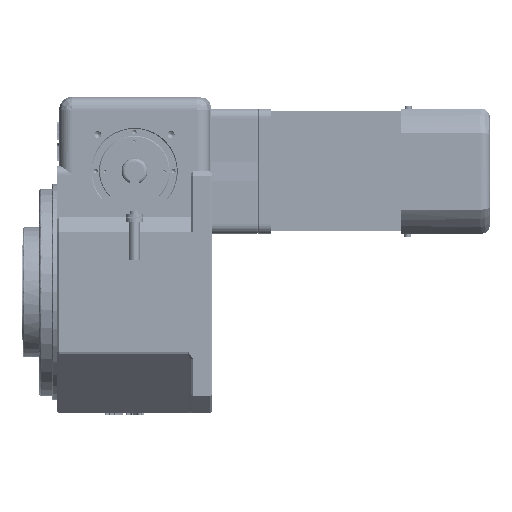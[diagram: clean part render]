
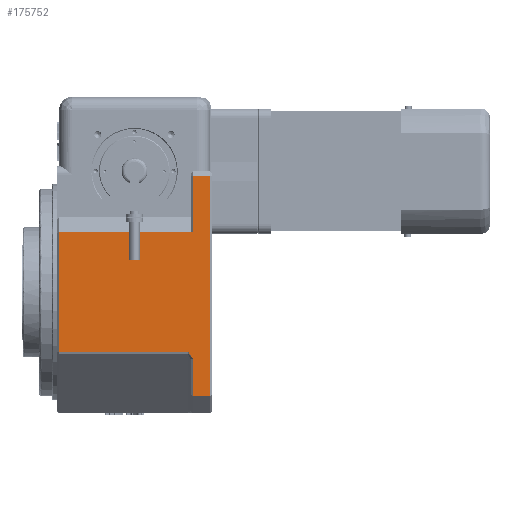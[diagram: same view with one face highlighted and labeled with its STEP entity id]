
A CAD part, left-side view. The second image highlights one B-rep face of the part: STEP entity #175752.
In plain terms, the highlighted planar face has unit normal (-1, 0, 0).
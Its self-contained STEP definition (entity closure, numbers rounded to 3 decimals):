
#14677 = DIRECTION ( 'NONE',  ( 0., 1., 0. ) ) ;
#14831 = VERTEX_POINT ( 'NONE', #25142 ) ;
#17374 = CARTESIAN_POINT ( 'NONE',  ( -140., 22., -120. ) ) ;
#19842 = VERTEX_POINT ( 'NONE', #136228 ) ;
#21843 = EDGE_CURVE ( 'NONE', #14831, #78593, #77747, .T. ) ;
#24834 = EDGE_CURVE ( 'NONE', #164460, #19842, #162462, .T. ) ;
#25134 = VECTOR ( 'NONE', #66437, 1000. ) ;
#25142 = CARTESIAN_POINT ( 'NONE',  ( -140., 177., 70. ) ) ;
#32472 = CARTESIAN_POINT ( 'NONE',  ( -140., 180., -68.757 ) ) ;
#35297 = DIRECTION ( 'NONE',  ( 0., 0., 1. ) ) ;
#35496 = VECTOR ( 'NONE', #180465, 1000. ) ;
#35765 = CARTESIAN_POINT ( 'NONE',  ( -140., 180., 135. ) ) ;
#37349 = LINE ( 'NONE', #139113, #173136 ) ;
#38720 = CARTESIAN_POINT ( 'NONE',  ( -140., 3., 135. ) ) ;
#38981 = FACE_OUTER_BOUND ( 'NONE', #126301, .T. ) ;
#44081 = CARTESIAN_POINT ( 'NONE',  ( -140., 22., 135. ) ) ;
#44847 = EDGE_CURVE ( 'NONE', #193841, #62478, #191656, .T. ) ;
#51494 = ORIENTED_EDGE ( 'NONE', *, *, #155626, .F. ) ;
#52799 = PLANE ( 'NONE',  #226387 ) ;
#53583 = DIRECTION ( 'NONE',  ( 0., 0., -1. ) ) ;
#55492 = CARTESIAN_POINT ( 'NONE',  ( -140., 180., -120. ) ) ;
#55788 = VECTOR ( 'NONE', #76374, 1000. ) ;
#56736 = DIRECTION ( 'NONE',  ( 0., 0.577, 0.816 ) ) ;
#60942 = ORIENTED_EDGE ( 'NONE', *, *, #200579, .T. ) ;
#61263 = ORIENTED_EDGE ( 'NONE', *, *, #151755, .F. ) ;
#62478 = VERTEX_POINT ( 'NONE', #44081 ) ;
#66437 = DIRECTION ( 'NONE',  ( 0., -1., 0. ) ) ;
#68777 = DIRECTION ( 'NONE',  ( 0., 0., 1. ) ) ;
#69193 = VERTEX_POINT ( 'NONE', #17374 ) ;
#69458 = LINE ( 'NONE', #55492, #111056 ) ;
#71094 = ORIENTED_EDGE ( 'NONE', *, *, #44847, .T. ) ;
#73734 = ORIENTED_EDGE ( 'NONE', *, *, #187617, .F. ) ;
#76374 = DIRECTION ( 'NONE',  ( 0., 1., 0. ) ) ;
#77747 = LINE ( 'NONE', #208381, #25134 ) ;
#78593 = VERTEX_POINT ( 'NONE', #125657 ) ;
#80765 = VECTOR ( 'NONE', #142971, 1000. ) ;
#85650 = CARTESIAN_POINT ( 'NONE',  ( -140., 3., -120. ) ) ;
#86296 = LINE ( 'NONE', #89429, #80765 ) ;
#89429 = CARTESIAN_POINT ( 'NONE',  ( -140., 22., 135. ) ) ;
#93295 = ORIENTED_EDGE ( 'NONE', *, *, #123874, .F. ) ;
#104099 = CARTESIAN_POINT ( 'NONE',  ( -140., 28., -68.757 ) ) ;
#109187 = ORIENTED_EDGE ( 'NONE', *, *, #109347, .F. ) ;
#109347 = EDGE_CURVE ( 'NONE', #19842, #14831, #147086, .T. ) ;
#111056 = VECTOR ( 'NONE', #215237, 1000. ) ;
#123874 = EDGE_CURVE ( 'NONE', #78593, #62478, #86296, .T. ) ;
#125657 = CARTESIAN_POINT ( 'NONE',  ( -140., 22., 70. ) ) ;
#126301 = EDGE_LOOP ( 'NONE', ( #51494, #61263, #73734, #60942, #71094, #93295, #179076, #109187, #133481 ) ) ;
#131760 = CARTESIAN_POINT ( 'NONE',  ( -140., 22., -77.243 ) ) ;
#133481 = ORIENTED_EDGE ( 'NONE', *, *, #24834, .F. ) ;
#135254 = LINE ( 'NONE', #38720, #35496 ) ;
#136228 = CARTESIAN_POINT ( 'NONE',  ( -140., 177., -68.757 ) ) ;
#139113 = CARTESIAN_POINT ( 'NONE',  ( -140., 22., 135. ) ) ;
#142971 = DIRECTION ( 'NONE',  ( 0., 0., 1. ) ) ;
#146839 = VERTEX_POINT ( 'NONE', #85650 ) ;
#147086 = LINE ( 'NONE', #174927, #188622 ) ;
#151755 = EDGE_CURVE ( 'NONE', #69193, #177611, #37349, .T. ) ;
#155626 = EDGE_CURVE ( 'NONE', #177611, #164460, #213130, .T. ) ;
#159697 = DIRECTION ( 'NONE',  ( 1., 0., 0. ) ) ;
#162462 = LINE ( 'NONE', #32472, #204219 ) ;
#162840 = CARTESIAN_POINT ( 'NONE',  ( -140., 22., -77.243 ) ) ;
#164460 = VERTEX_POINT ( 'NONE', #104099 ) ;
#171393 = VECTOR ( 'NONE', #56736, 1000. ) ;
#173136 = VECTOR ( 'NONE', #35297, 1000. ) ;
#174927 = CARTESIAN_POINT ( 'NONE',  ( -140., 177., 135. ) ) ;
#175752 = ADVANCED_FACE ( 'NONE', ( #38981 ), #52799, .F. ) ;
#177611 = VERTEX_POINT ( 'NONE', #131760 ) ;
#178283 = CARTESIAN_POINT ( 'NONE',  ( -140., 3., 135. ) ) ;
#179076 = ORIENTED_EDGE ( 'NONE', *, *, #21843, .F. ) ;
#180465 = DIRECTION ( 'NONE',  ( 0., 0., 1. ) ) ;
#182523 = CARTESIAN_POINT ( 'NONE',  ( -140., 180., 135. ) ) ;
#187617 = EDGE_CURVE ( 'NONE', #146839, #69193, #69458, .T. ) ;
#188622 = VECTOR ( 'NONE', #68777, 1000. ) ;
#191656 = LINE ( 'NONE', #182523, #55788 ) ;
#193841 = VERTEX_POINT ( 'NONE', #178283 ) ;
#200579 = EDGE_CURVE ( 'NONE', #146839, #193841, #135254, .T. ) ;
#204219 = VECTOR ( 'NONE', #14677, 1000. ) ;
#208381 = CARTESIAN_POINT ( 'NONE',  ( -140., 180., 70. ) ) ;
#213130 = LINE ( 'NONE', #162840, #171393 ) ;
#215237 = DIRECTION ( 'NONE',  ( 0., 1., 0. ) ) ;
#226387 = AXIS2_PLACEMENT_3D ( 'NONE', #35765, #159697, #53583 ) ;
